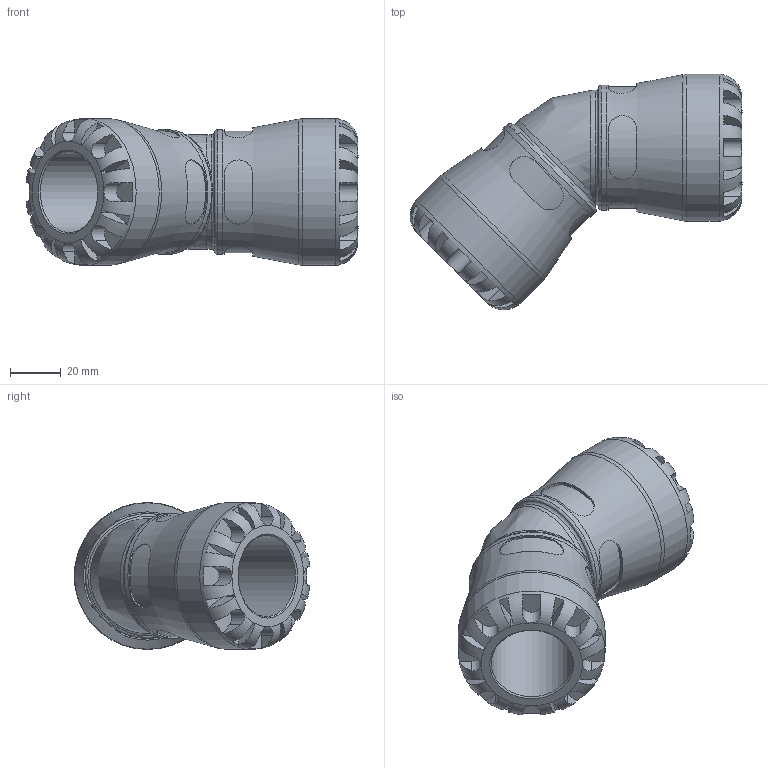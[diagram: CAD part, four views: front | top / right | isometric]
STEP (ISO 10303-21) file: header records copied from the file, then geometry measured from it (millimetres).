
FILE_DESCRIPTION(/* description */ ('PLASSON 45° ELBOW 32-32 SERIES 1'),/* implementation_level */ '2;1');
FILE_NAME(/* name */ 'C:\Dropbox\KIMPROJECTS-Inventor\99-16-3568-Processing\1006\100600032_190600032.ipt.stp',/* time_stamp */ '2017-01-22T11:45:29+02:00',/* author */ ('KIM'),/* organization */ (''),/* preprocessor_version */ 'ST-DEVELOPER v15.6',/* originating_system */ 'Autodesk Inventor 2015',/* authorisation */ '');
FILE_SCHEMA (('AUTOMOTIVE_DESIGN { 1 0 10303 214 3 1 1 }'));
Length unit declared in the file: millimetre
Products named in the file (1): 100600032_190600032
Bounding box: 130.97 x 92.97 x 58 mm (x, y, z)
Volume: 180940.4 mm3; surface area: 41736.6 mm2
Topology: 1 solids, 1 shells, 196 faces, 498 edges, 310 vertices
Faces by surface type: plane 116, cylinder 66, torus 11, cone 2, bspline 1
Full cylindrical faces by diameter (mm): 26.667 x2, 32 x2, 49.3 x2, 58 x2
Entity records: 7546 total; most frequent: CARTESIAN_POINT 2907, ORIENTED_EDGE 922, DIRECTION 896, EDGE_CURVE 461, AXIS2_PLACEMENT_3D 368, VERTEX_POINT 298, EDGE_LOOP 229, STYLED_ITEM 197
